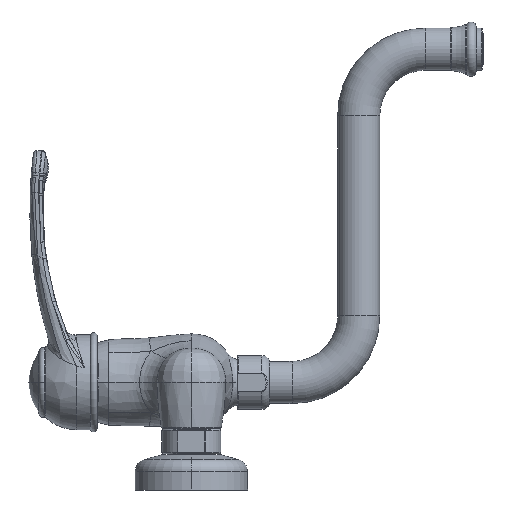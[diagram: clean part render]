
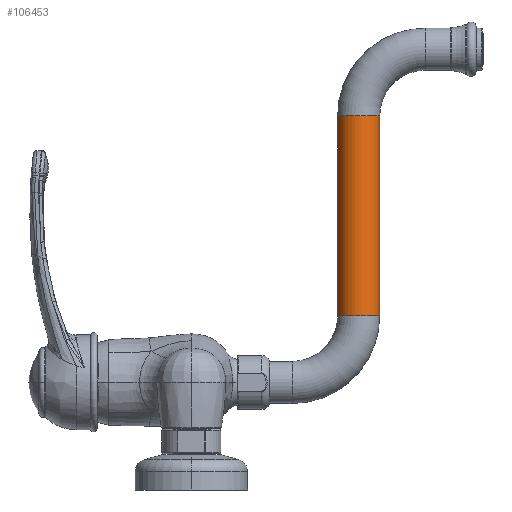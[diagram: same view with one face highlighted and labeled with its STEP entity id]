
A CAD part, left-side view. The second image highlights one B-rep face of the part: STEP entity #106453.
In plain terms, the highlighted cylindrical face has radius 12 mm (diameter 24 mm), a partial arc.
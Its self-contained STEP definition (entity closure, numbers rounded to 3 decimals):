
#1666=DIRECTION('',(0.,0.,-1.));
#1667=VECTOR('',#1666,114.);
#1668=CARTESIAN_POINT('',(0.,-83.4,152.));
#1669=LINE('',#1668,#1667);
#1670=CARTESIAN_POINT('',(0.,-95.4,152.));
#1671=DIRECTION('',(0.,0.,-1.));
#1672=DIRECTION('',(0.,-1.,0.));
#1673=AXIS2_PLACEMENT_3D('',#1670,#1671,#1672);
#1675=DIRECTION('',(0.,0.,-1.));
#1676=VECTOR('',#1675,114.);
#1677=CARTESIAN_POINT('',(0.,-107.4,152.));
#1678=LINE('',#1677,#1676);
#1679=CARTESIAN_POINT('',(0.,-95.4,38.));
#1680=DIRECTION('',(0.,0.,-1.));
#1681=DIRECTION('',(0.,-1.,0.));
#1682=AXIS2_PLACEMENT_3D('',#1679,#1680,#1681);
#94081=CARTESIAN_POINT('',(0.,-107.4,152.));
#94082=CARTESIAN_POINT('',(0.,-83.4,152.));
#94083=VERTEX_POINT('',#94081);
#94084=VERTEX_POINT('',#94082);
#94089=CARTESIAN_POINT('',(0.,-107.4,38.));
#94090=CARTESIAN_POINT('',(0.,-83.4,38.));
#94091=VERTEX_POINT('',#94089);
#94092=VERTEX_POINT('',#94090);
#106441=CARTESIAN_POINT('',(0.,-95.4,152.));
#106442=DIRECTION('',(0.,0.,-1.));
#106443=DIRECTION('',(0.,-1.,0.));
#106444=AXIS2_PLACEMENT_3D('',#106441,#106442,#106443);
#106445=CYLINDRICAL_SURFACE('',#106444,12.);
#106446=ORIENTED_EDGE('',*,*,#106406,.F.);
#106447=ORIENTED_EDGE('',*,*,#106436,.T.);
#106449=ORIENTED_EDGE('',*,*,#106448,.T.);
#106450=ORIENTED_EDGE('',*,*,#106432,.F.);
#106451=EDGE_LOOP('',(#106446,#106447,#106449,#106450));
#106452=FACE_OUTER_BOUND('',#106451,.F.);
#106453=ADVANCED_FACE('',(#106452),#106445,.T.);
#1674=CIRCLE('',#1673,12.);
#1683=CIRCLE('',#1682,12.);
#106406=EDGE_CURVE('',#94083,#94084,#1674,.T.);
#106432=EDGE_CURVE('',#94084,#94092,#1669,.T.);
#106436=EDGE_CURVE('',#94083,#94091,#1678,.T.);
#106448=EDGE_CURVE('',#94091,#94092,#1683,.T.);
